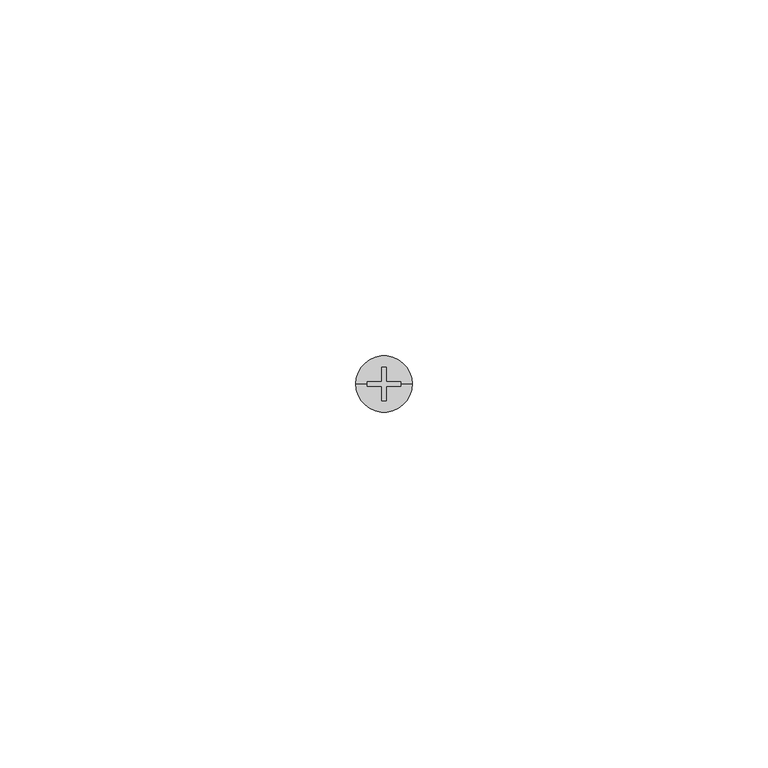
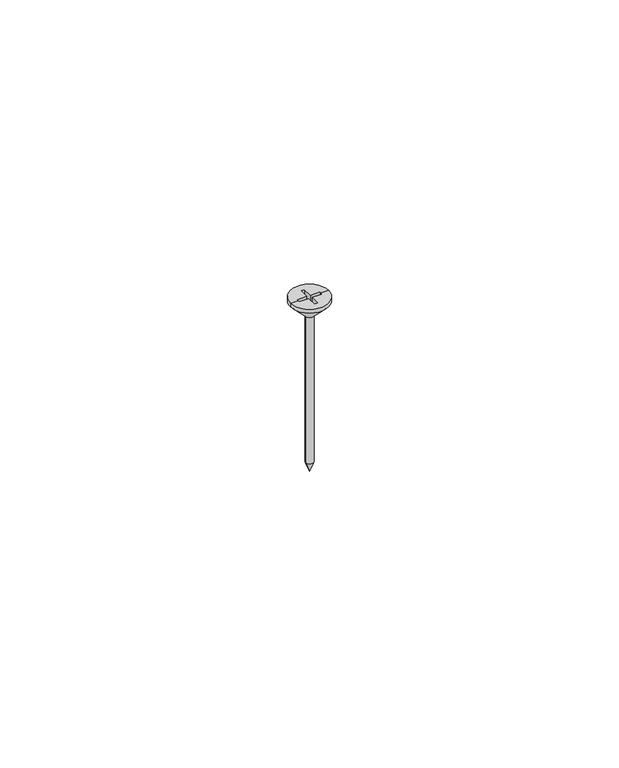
"""IFC4 building model written with IfcOpenShell, lengths in millimetres: proxy geometry, CRAi Generic Model Drywall Screw : CRAi Generic Model Drywall Screw."""

import ifcopenshell
import ifcopenshell.guid

model = None  # the IFC model being written
_history = None  # IfcOwnerHistory: only IFC2X3 demands one
_inside = {}  # id of a spatial element -> (the spatial element, [elements in it])
_under = {}  # id of a project, library or spatial element -> (it, [spatial elements below it])
_declared = {}  # id of a project -> (the project, [libraries it declares])
_typed = {}  # id of a type object -> (the type object, [elements of that type])
_made_of = {}  # id of a material, layer set ... -> (it, [elements and type objects made of it])


def new_model(schema):
    """Start an empty IFC model of exactly this schema.

    Asked for "IFC4X3", IfcOpenShell would pick the latest addendum, in which some entities
    have other attributes; the version numbers below select the first issue.
    IFC2X3 requires an IfcOwnerHistory on every rooted entity: one is made here for all.
    """
    global model, _history
    if schema == "IFC4X3":
        model = ifcopenshell.file(schema_version=(4, 3, 0, 0))
    else:
        model = ifcopenshell.file(schema=schema)
    _inside.clear()
    _under.clear()
    _declared.clear()
    _typed.clear()
    _made_of.clear()
    _history = None
    if model.schema == "IFC2X3":
        org = make("IfcOrganization", Name="unknown")
        user = make(
            "IfcPersonAndOrganization",
            ThePerson=make("IfcPerson", FamilyName="unknown"),
            TheOrganization=org,
        )
        app = make(
            "IfcApplication",
            ApplicationDeveloper=org,
            Version="unknown",
            ApplicationFullName="unknown",
            ApplicationIdentifier="unknown",
        )
        _history = make(
            "IfcOwnerHistory",
            OwningUser=user,
            OwningApplication=app,
            ChangeAction="ADDED",
            CreationDate=0,
        )
    return model


def make(cls, **values):
    """One entity of the class cls with the attributes given. An attribute that is None is left unset."""
    return model.create_entity(
        cls, **{name: value for name, value in values.items() if value is not None}
    )


def rooted(cls, **values):
    """An entity with a GlobalId (a new one), such as an element, a storey or a relation."""
    return make(cls, GlobalId=ifcopenshell.guid.new(), OwnerHistory=_history, **values)


def si_unit(unit_type, name, prefix=None):
    """IfcSIUnit, for example si_unit("LENGTHUNIT", "METRE", prefix="MILLI")."""
    return make("IfcSIUnit", UnitType=unit_type, Prefix=prefix, Name=name)


def assignment(units):
    """IfcUnitAssignment: the units of a project."""
    return None if units is None else make("IfcUnitAssignment", Units=units)


def point(xyz):
    """IfcCartesianPoint."""
    return None if xyz is None else make("IfcCartesianPoint", Coordinates=xyz)


def direction(xyz):
    """IfcDirection."""
    return None if xyz is None else make("IfcDirection", DirectionRatios=xyz)


def frame(location, z_axis=None, x_axis=None):
    """IfcAxis2Placement3D, a coordinate frame: its origin and axes. An axis left out is left unset."""
    return make(
        "IfcAxis2Placement3D",
        Location=point(location),
        Axis=direction(z_axis),
        RefDirection=direction(x_axis),
    )


def origin():
    """The frame at (0, 0, 0) with its axes left unset."""
    return frame((0.0, 0.0, 0.0))


def place(relative_to, where):
    """IfcLocalPlacement: puts the frame where relative to a parent placement (None: the world)."""
    return make(
        "IfcLocalPlacement", PlacementRelTo=relative_to, RelativePlacement=where
    )


def context(
    kind, dimensions, precision=None, world=None, true_north=None, identifier=None
):
    """IfcGeometricRepresentationContext, for example the 3D "Model" context."""
    return make(
        "IfcGeometricRepresentationContext",
        ContextIdentifier=identifier,
        ContextType=kind,
        CoordinateSpaceDimension=dimensions,
        Precision=precision,
        WorldCoordinateSystem=world,
        TrueNorth=true_north,
    )


def project(units=None, contexts=None):
    """IfcProject with its units and contexts."""
    return rooted(
        "IfcProject",
        Name="project",
        RepresentationContexts=contexts,
        UnitsInContext=assignment(units),
    )


def spatial(cls, under=None, at=None, **own):
    """A site, building, storey or space (cls), placed at a placement, below another one or the project."""
    s = rooted(cls, ObjectPlacement=at, **own)
    if under is not None:
        _under.setdefault(under.id(), (under, []))[1].append(s)
    return s


def polyline(points):
    """IfcPolyline through the points."""
    return make("IfcPolyline", Points=[point(p) for p in points])


def circle_curve(where, radius):
    """IfcCircle in the frame where."""
    return make("IfcCircle", Position=where, Radius=radius)


def shape(context_of_items, identifier, shape_type, items):
    """IfcShapeRepresentation: the items that make up one representation, for example the "Body"."""
    return make(
        "IfcShapeRepresentation",
        ContextOfItems=context_of_items,
        RepresentationIdentifier=identifier,
        RepresentationType=shape_type,
        Items=items,
    )


def source(mapping_origin, context_of_items, identifier, shape_type, items):
    """IfcRepresentationMap: a shape defined once, which mapped items show again and again."""
    return make(
        "IfcRepresentationMap",
        MappingOrigin=mapping_origin,
        MappedRepresentation=shape(context_of_items, identifier, shape_type, items),
    )


def transform(
    local_origin,
    x_axis=None,
    y_axis=None,
    z_axis=None,
    scale=None,
    scale2=None,
    scale3=None,
    uniform=True,
):
    """IfcCartesianTransformationOperator3D, or its non-uniform kind. x_axis, y_axis, z_axis: its Axis1, 2, 3."""
    if uniform:
        return make(
            "IfcCartesianTransformationOperator3D",
            Axis1=direction(x_axis),
            Axis2=direction(y_axis),
            LocalOrigin=point(local_origin),
            Scale=scale,
            Axis3=direction(z_axis),
        )
    return make(
        "IfcCartesianTransformationOperator3DnonUniform",
        Axis1=direction(x_axis),
        Axis2=direction(y_axis),
        LocalOrigin=point(local_origin),
        Scale=scale,
        Axis3=direction(z_axis),
        Scale2=scale2,
        Scale3=scale3,
    )


def mapped(mapping_source, mapping_target):
    """IfcMappedItem: shows the shape of a source again, moved by a transform."""
    return make(
        "IfcMappedItem", MappingSource=mapping_source, MappingTarget=mapping_target
    )


def made_of(thing, what):
    """Note that an element or type object is made of a material, layer set ...; save() writes the relation."""
    if what is not None:
        _made_of.setdefault(what.id(), (what, []))[1].append(thing)
    return thing


def element(
    cls,
    number,
    at=None,
    inside=None,
    cuts=None,
    type_object=None,
    material=None,
    context=None,
    identifier="Body",
    shape_type=None,
    held_by="IfcProductDefinitionShape",
    body=None,
    shapes=None,
    **own,
):
    """One element of the class cls, such as IfcWall. Its Tag is "e" and its number.

    at: its placement. inside: the storey or other place that contains it. cuts: it is an
    opening in that element (IfcRelVoidsElement). A single representation is given by context,
    identifier, shape_type and body (its items); several are given by shapes. held_by: the class
    of the entity that holds the representations. save() writes the other relations.
    """
    e = rooted(cls, Tag="e%d" % number, ObjectPlacement=at, **own)
    if body is not None:
        shapes = [shape(context, identifier, shape_type, body)]
    if shapes is not None:
        e.Representation = make(held_by, Representations=shapes)
    if inside is not None:
        _inside.setdefault(inside.id(), (inside, []))[1].append(e)
    if cuts is not None:
        rooted(
            "IfcRelVoidsElement", RelatingBuildingElement=cuts, RelatedOpeningElement=e
        )
    if type_object is not None:
        _typed.setdefault(type_object.id(), (type_object, []))[1].append(e)
    return made_of(e, material)


def aggregate(whole, parts):
    """IfcRelAggregates: a whole, such as a stair, and the parts it consists of."""
    return rooted("IfcRelAggregates", RelatingObject=whole, RelatedObjects=parts)


def save(model, path):
    """Write the relations noted so far, then the file.

    IfcRelAggregates (storeys below a building ...), IfcRelContainedInSpatialStructure (elements
    in a storey), IfcRelDefinesByType, IfcRelAssociatesMaterial and IfcRelDeclares: one each for
    every whole, place, type object, material and project.
    """
    for whole, parts in _under.values():
        aggregate(whole, parts)
    for where, things in _inside.values():
        rooted(
            "IfcRelContainedInSpatialStructure",
            RelatedElements=things,
            RelatingStructure=where,
        )
    for kind, things in _typed.values():
        rooted("IfcRelDefinesByType", RelatedObjects=things, RelatingType=kind)
    for what, things in _made_of.values():
        rooted("IfcRelAssociatesMaterial", RelatedObjects=things, RelatingMaterial=what)
    for by, libraries in _declared.values():
        rooted("IfcRelDeclares", RelatingContext=by, RelatedDefinitions=libraries)
    model.write(path)


def plane_surface(at):
    """IfcPlane: the flat surface through the origin of the frame at, square to its z axis."""
    return make("IfcPlane", Position=at)


def cylinder_surface(at, radius):
    """IfcCylindricalSurface: all points at the distance radius from the z axis of the frame at."""
    return make("IfcCylindricalSurface", Position=at, Radius=radius)


def revolved_surface(curve, axis_point, axis_direction):
    """IfcSurfaceOfRevolution: the curve turned about the line through axis_point along axis_direction."""
    return make(
        "IfcSurfaceOfRevolution",
        SweptCurve=make("IfcArbitraryOpenProfileDef", ProfileType="CURVE", Curve=curve),
        AxisPosition=make("IfcAxis1Placement", Location=point(axis_point), Axis=direction(axis_direction)),
    )


def advanced_brep(points, edges, surfaces, faces):
    """IfcAdvancedBrep: a solid bounded by faces that lie on surfaces and meet in shared edges.

    An edge is (start, end): straight between two places in points (the first is 0);
    or (start, end, curve); or (start, end, curve, False) where it runs against its curve.
    A face is (place in surfaces, loops), or (place, loops, False) where it looks against
    its surface's normal. A loop lists edges by number (the first is 1), with a minus sign
    where the edge is run from its end to its start. The first loop is the outer one.
    """
    corners = [point(p) for p in points]
    vertices = [make("IfcVertexPoint", VertexGeometry=c) for c in corners]
    made = []
    for start, end, *more in edges:
        made.append(
            make(
                "IfcEdgeCurve",
                EdgeStart=vertices[start],
                EdgeEnd=vertices[end],
                EdgeGeometry=more[0] if more else make("IfcPolyline", Points=[corners[start], corners[end]]),
                SameSense=more[1] if len(more) > 1 else True,
            )
        )
    hull = []
    for where, loops, *sense in faces:
        bounds = []
        for j, loop in enumerate(loops):
            ring = [make("IfcOrientedEdge", EdgeElement=made[abs(k) - 1], Orientation=k > 0) for k in loop]
            bounds.append(
                make(
                    "IfcFaceOuterBound" if j == 0 else "IfcFaceBound",
                    Bound=make("IfcEdgeLoop", EdgeList=ring),
                    Orientation=True,
                )
            )
        hull.append(make("IfcAdvancedFace", Bounds=bounds, FaceSurface=surfaces[where], SameSense=sense[0] if sense else True))
    return make("IfcAdvancedBrep", Outer=make("IfcClosedShell", CfsFaces=hull))


def generic_models_03ec6e0e(model_context):
    return source(origin(), model_context, "Body", "AdvancedBrep", [
        advanced_brep(
        [(3.96875, 0.0, -0.396875), (-3.96875, 0.0, -0.396875), (-3.96875, 0.0, 0.396875), (3.96875, 0.0, 0.396875), (0.79375, 0.0, -3.571875), (-0.79375, 0.0, -3.571875), (0.79375, 0.0, -35.5223148), (-0.79375, 0.0, -35.5223148), (0.0, 0.0, -37.703125), (-2.4010937, 0.0, 0.396875), (-2.4010937, 0.396875, 0.396875), (-0.396875, 0.396875, 0.396875), (-0.396875, 2.4010937, 0.396875), (0.396875, 2.4010937, 0.396875), (0.396875, 0.396875, 0.396875), (2.4010938, 0.396875, 0.396875), (2.4010938, 0.0, 0.396875), (2.4010938, -0.396875, 0.396875), (0.396875, -0.396875, 0.396875), (0.396875, -2.4010938, 0.396875), (-0.396875, -2.4010938, 0.396875), (-0.396875, -0.396875, 0.396875), (-2.4010937, -0.396875, 0.396875), (0.396875, -2.4010938, -1.2025097), (0.396875, -0.396875, -1.2025097), (2.4010938, -0.396875, -1.2025097), (2.4010938, 0.396875, -1.2025097), (0.396875, 0.396875, -1.2025097), (0.396875, 2.4010937, -1.2025097), (-0.396875, 2.4010937, -1.2025097), (-0.396875, 0.396875, -1.2025097), (-2.4010937, 0.396875, -1.2025097), (-2.4010937, -0.396875, -1.2025097), (-0.396875, -0.396875, -1.2025097), (-0.396875, -2.4010938, -1.2025097)],
        [
            (0, 1, circle_curve(frame((0.0, 0.0, -0.396875), z_axis=(0.0, 0.0, 1.0), x_axis=(-1.0, 0.0, 0.0)), 3.96875)),
            (1, 2),
            (2, 3, circle_curve(frame((0.0, 0.0, 0.396875), z_axis=(0.0, 0.0, -1.0), x_axis=(-1.0, 0.0, 0.0)), 3.96875)),
            (3, 0),
            (1, 0, circle_curve(frame((0.0, 0.0, -0.396875), z_axis=(0.0, 0.0, 1.0), x_axis=(-1.0, 0.0, 0.0)), 3.96875)),
            (3, 2, circle_curve(frame((0.0, 0.0, 0.396875), z_axis=(0.0, 0.0, -1.0), x_axis=(-1.0, 0.0, 0.0)), 3.96875)),
            (0, 4),
            (4, 5, circle_curve(frame((0.0, 0.0, -3.571875), z_axis=(0.0, 0.0, 1.0), x_axis=(-1.0, 0.0, 0.0)), 0.79375)),
            (5, 1),
            (5, 4, circle_curve(frame((0.0, 0.0, -3.571875), z_axis=(0.0, 0.0, 1.0), x_axis=(-1.0, 0.0, 0.0)), 0.79375)),
            (4, 6),
            (6, 7, circle_curve(frame((0.0, 0.0, -35.5223148), z_axis=(0.0, 0.0, 1.0), x_axis=(-1.0, 0.0, 0.0)), 0.79375)),
            (7, 5),
            (7, 6, circle_curve(frame((0.0, 0.0, -35.5223148), z_axis=(0.0, 0.0, 1.0), x_axis=(-1.0, 0.0, 0.0)), 0.79375)),
            (6, 8),
            (8, 7),
            (2, 9),
            (9, 10),
            (10, 11),
            (11, 12),
            (12, 13),
            (13, 14),
            (14, 15),
            (15, 16),
            (16, 3),
            (16, 17),
            (17, 18),
            (18, 19),
            (19, 20),
            (20, 21),
            (21, 22),
            (22, 9),
            (23, 24),
            (24, 25),
            (25, 26),
            (26, 27),
            (27, 28),
            (28, 29),
            (29, 30),
            (30, 31),
            (31, 32),
            (32, 33),
            (33, 34),
            (34, 23),
            (34, 20),
            (19, 23),
            (33, 21),
            (32, 22),
            (31, 10),
            (30, 11),
            (29, 12),
            (28, 13),
            (27, 14),
            (26, 15),
            (25, 17),
            (24, 18),
        ],
        [
            cylinder_surface(frame((0.0, 0.0, 7.2579317), z_axis=(0.0, 0.0, -1.0), x_axis=(-1.0, 0.0, 0.0)), 3.96875),
            revolved_surface(polyline([(-3.96875, 0.0, -0.396875), (-0.79375, 0.0, -3.571875)]), (0.0, 0.0, 7.2579317), (0.0, 0.0, -1.0)),
            cylinder_surface(frame((0.0, 0.0, 7.2579317), z_axis=(0.0, 0.0, -1.0), x_axis=(-1.0, 0.0, 0.0)), 0.79375),
            revolved_surface(polyline([(-0.79375, 0.0, -35.5223148), (0.0, 0.0, -37.703125)]), (0.0, 0.0, 7.2579317), (0.0, 0.0, -1.0)),
            plane_surface(frame((0.0, 0.0, 0.396875), z_axis=(0.0, 0.0, 1.0), x_axis=(-1.0, 0.0, 0.0))),
            plane_surface(frame((-0.396875, -2.4010938, -1.2025097), z_axis=(0.0, 0.0, 1.0), x_axis=(-1.0, 0.0, 0.0))),
            plane_surface(frame((0.396875, -2.4010938, -1.2025097), z_axis=(0.0, 1.0, 0.0), x_axis=(0.0, 0.0, 1.0))),
            plane_surface(frame((-0.396875, -2.4010938, -1.2025097), z_axis=(1.0, 0.0, 0.0), x_axis=(0.0, 0.0, 1.0))),
            plane_surface(frame((-0.396875, -0.396875, -1.2025097), z_axis=(0.0, 1.0, 0.0), x_axis=(0.0, 0.0, 1.0))),
            plane_surface(frame((-2.4010937, -0.396875, -1.2025097), z_axis=(1.0, 0.0, 0.0), x_axis=(0.0, 0.0, 1.0))),
            plane_surface(frame((-2.4010937, 0.396875, -1.2025097), z_axis=(0.0, -1.0, 0.0), x_axis=(0.0, 0.0, 1.0))),
            plane_surface(frame((-0.396875, 0.396875, -1.2025097), z_axis=(1.0, 0.0, 0.0), x_axis=(0.0, 0.0, 1.0))),
            plane_surface(frame((-0.396875, 2.4010937, -1.2025097), z_axis=(0.0, -1.0, 0.0), x_axis=(0.0, 0.0, 1.0))),
            plane_surface(frame((0.396875, 2.4010937, -1.2025097), z_axis=(-1.0, 0.0, 0.0), x_axis=(0.0, 0.0, 1.0))),
            plane_surface(frame((0.396875, 0.396875, -1.2025097), z_axis=(0.0, -1.0, 0.0), x_axis=(0.0, 0.0, 1.0))),
            plane_surface(frame((2.4010938, 0.396875, -1.2025097), z_axis=(-1.0, 0.0, 0.0), x_axis=(0.0, 0.0, 1.0))),
            plane_surface(frame((2.4010938, -0.396875, -1.2025097), z_axis=(0.0, 1.0, 0.0), x_axis=(0.0, 0.0, 1.0))),
            plane_surface(frame((0.396875, -0.396875, -1.2025097), z_axis=(-1.0, 0.0, 0.0), x_axis=(0.0, 0.0, 1.0))),
        ],
        [
            (0, [[1, 2, 3, 4]]),
            (0, [[-2, 5, -4, 6]]),
            (1, [[-1, 7, 8, 9]]),
            (1, [[-5, -9, 10, -7]]),
            (2, [[-8, 11, 12, 13]]),
            (2, [[-10, -13, 14, -11]]),
            (3, [[-12, 15, 16]]),
            (3, [[-14, -16, -15]]),
            (4, [[-3, 17, 18, 19, 20, 21, 22, 23, 24, 25]]),
            (4, [[-6, -25, 26, 27, 28, 29, 30, 31, 32, -17]]),
            (5, [[33, 34, 35, 36, 37, 38, 39, 40, 41, 42, 43, 44]]),
            (6, [[-44, 45, -29, 46]]),
            (7, [[-43, 47, -30, -45]]),
            (8, [[-42, 48, -31, -47]]),
            (9, [[-41, 49, -18, -32, -48]]),
            (10, [[-40, 50, -19, -49]]),
            (11, [[-39, 51, -20, -50]]),
            (12, [[-38, 52, -21, -51]]),
            (13, [[-37, 53, -22, -52]]),
            (14, [[-36, 54, -23, -53]]),
            (15, [[-35, 55, -26, -24, -54]]),
            (16, [[-34, 56, -27, -55]]),
            (17, [[-33, -46, -28, -56]]),
        ],
    ),
    ])


if __name__ == "__main__":
    model = new_model("IFC4")
    model_context = context("Model", 3, world=origin())
    ifc_project = project(units=[si_unit("LENGTHUNIT", "METRE", prefix="MILLI")], contexts=[model_context])
    site = spatial("IfcSite", under=ifc_project)
    building = spatial("IfcBuilding", under=site)
    placement = place(None, origin())
    generic_models_shape = generic_models_03ec6e0e(model_context)
    element("IfcBuildingElementProxy", 1, Name="CRAi Generic Model Drywall Screw : CRAi Generic Model Drywall Screw", ObjectType="CRAi Generic Model Drywall Screw : CRAi Generic Model Drywall Screw", at=placement, inside=building, context=model_context, shape_type="MappedRepresentation", body=[
        mapped(generic_models_shape, transform((0.0, 0.0, 0.0), x_axis=(1.0, 0.0, 0.0), y_axis=(0.0, 1.0, 0.0), z_axis=(0.0, 0.0, 1.0))),
    ])
    save(model, "model.ifc")
